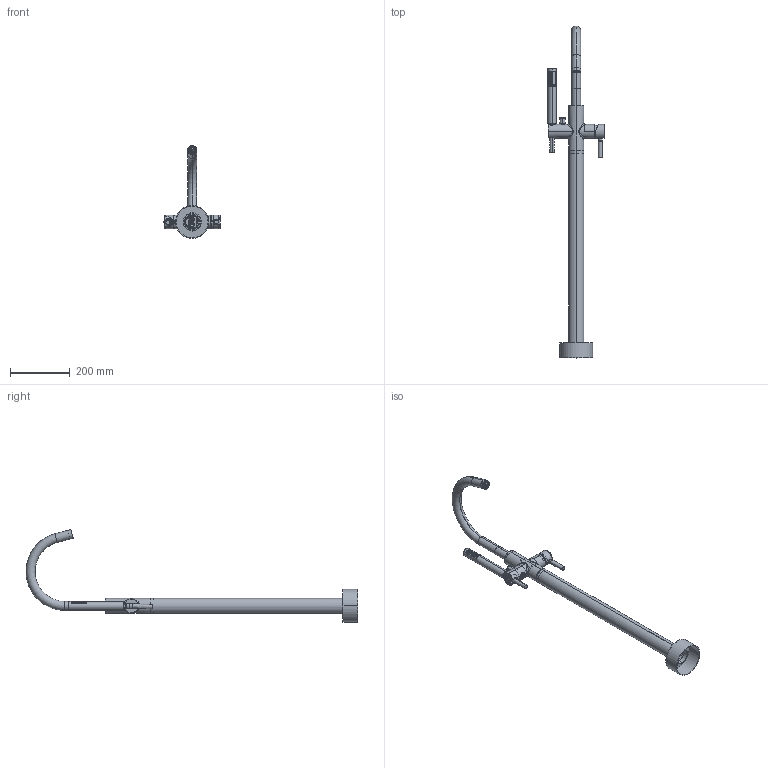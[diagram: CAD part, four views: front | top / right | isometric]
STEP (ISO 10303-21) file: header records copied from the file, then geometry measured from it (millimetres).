
FILE_DESCRIPTION(('FreeCAD Model'),'2;1');
FILE_NAME('Open CASCADE Shape Model','2024-08-16T14:59:06',('Author'),( ''),'Open CASCADE STEP processor 7.6','FreeCAD','Unknown');
FILE_SCHEMA(('AUTOMOTIVE_DESIGN { 1 0 10303 214 1 1 1 1 }'));
Length unit declared in the file: millimetre
Products named in the file (15): BJ22-622_ASM; MSBR-451_; MSBR-1112_; TI1; MSBR-211_; ZS37-011_; 18_1320_00001; MSBR-241_; HUASARUANGUAN; MSBR-421_; MSBR-621_; SD93741Y-0-11__0001; INSIDE; 409300; SD93741Y-0-08
Assembly tree (14 placements, depth 2):
  BJ22-622_ASM
    MSBR-451_
    MSBR-1112_
    TI1
    MSBR-211_
    ZS37-011_
    18_1320_00001
    MSBR-241_
    HUASARUANGUAN
    MSBR-421_
    MSBR-621_
    SD93741Y-0-11__0001
    INSIDE
    409300
    SD93741Y-0-08
Bounding box: 188 x 1106.76 x 309.76 mm (x, y, z)
Volume: 586139.8 mm3; surface area: 507546.6 mm2
Topology: 14 solids, 14 shells, 1277 faces, 3097 edges, 1934 vertices
Faces by surface type: cylinder 494, plane 293, torus 172, cone 148, bspline 130, sphere 40
Entity records: 60847 total; most frequent: CARTESIAN_POINT 31344, ORIENTED_EDGE 6164, DIRECTION 5997, EDGE_CURVE 3082, AXIS2_PLACEMENT_3D 2531, VERTEX_POINT 1934, FACE_BOUND 1464, EDGE_LOOP 1464
